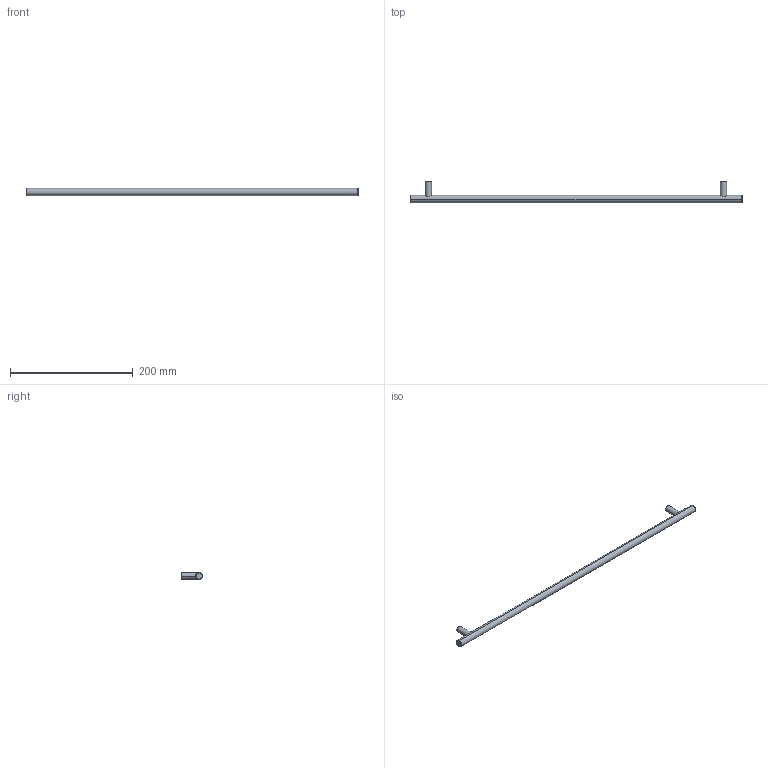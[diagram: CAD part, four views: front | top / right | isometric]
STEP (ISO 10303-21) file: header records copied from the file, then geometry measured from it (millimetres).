
FILE_DESCRIPTION( ( '' ), '1' );
FILE_NAME( 'C:/Documents and Settings/Sachin/Desktop/Sheet 10_1/stp/9070753.stp', '2013-10-22T12:38:21', ( '' ), ( '' ), ' ', ' ', ' ' );
FILE_SCHEMA( ( 'CONFIG_CONTROL_DESIGN' ) );
Length unit declared in the file: millimetre
Products named in the file (1): 1
Bounding box: 540 x 35 x 12 mm (x, y, z)
Volume: 64560 mm3; surface area: 22255.3 mm2
Topology: 1 solids, 1 shells, 20 faces, 44 edges, 30 vertices
Faces by surface type: cylinder 10, plane 6, torus 4
Entity records: 738 total; most frequent: CARTESIAN_POINT 229, DIRECTION 108, ORIENTED_EDGE 88, AXIS2_PLACEMENT_3D 49, EDGE_CURVE 44, VERTEX_POINT 30, CIRCLE 28, EDGE_LOOP 24
